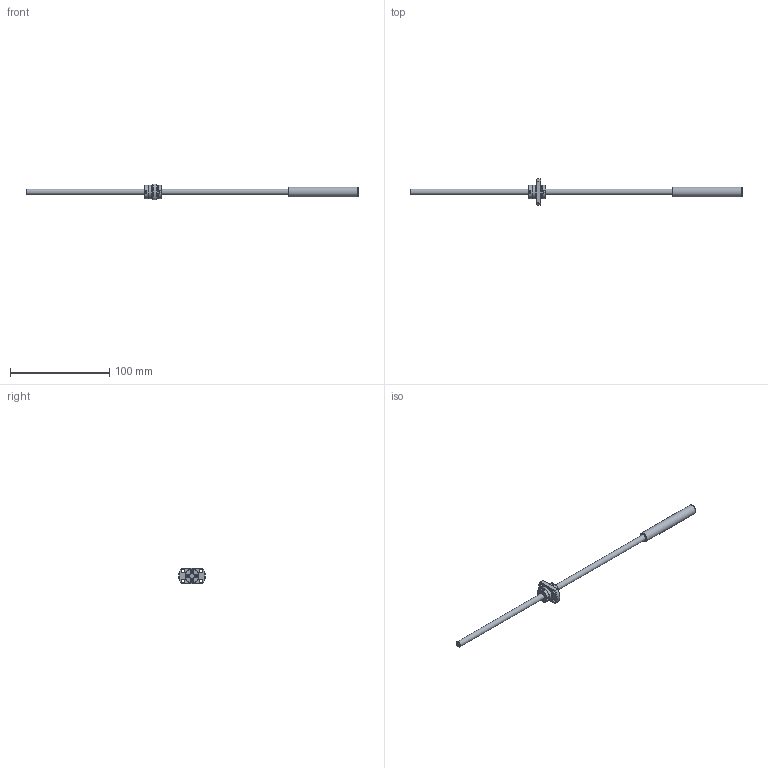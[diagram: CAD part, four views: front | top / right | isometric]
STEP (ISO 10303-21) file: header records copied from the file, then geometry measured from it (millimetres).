
FILE_DESCRIPTION(/* description */ ('STEP AP214'),/* implementation_level */ '2;1');
FILE_NAME(/* name */ 'SRT0606-261R335C7A0X(120None)',/* time_stamp */ '2026-08-04T17:56:45+02:00',/* author */ ('License CC BY-ND 4.0'),/* organization */ ('CADENAS'),/* preprocessor_version */ 'ST-DEVELOPER v20',/* originating_system */ 'PARTsolutions',/* authorisation */ ' ');
FILE_SCHEMA (('AUTOMOTIVE_DESIGN {1 0 10303 214 3 1 1}'));
Length unit declared in the file: millimetre
Products named in the file (3): SRT0606-261R335C7A0X(120None); SRT0606-261R335ACt7None22Shaft; SRT0606Nut
Assembly tree (2 placements, depth 2):
  SRT0606-261R335C7A0X(120None)
    SRT0606-261R335ACt7None22Shaft
    SRT0606Nut
Bounding box: 335 x 27 x 16 mm (x, y, z)
Volume: 15511.2 mm3; surface area: 9544.6 mm2
Topology: 2 solids, 2 shells, 138 faces, 334 edges, 222 vertices
Faces by surface type: plane 100, cylinder 30, cone 8
Full cylindrical faces by diameter (mm): 3 x8, 3.4 x4, 6 x2, 9.7 x1, 13.6 x1, 13.8 x2, 14 x2
Entity records: 3971 total; most frequent: CARTESIAN_POINT 689, DIRECTION 662, ORIENTED_EDGE 612, EDGE_CURVE 306, AXIS2_PLACEMENT_3D 223, VERTEX_POINT 218, LINE 216, VECTOR 216
